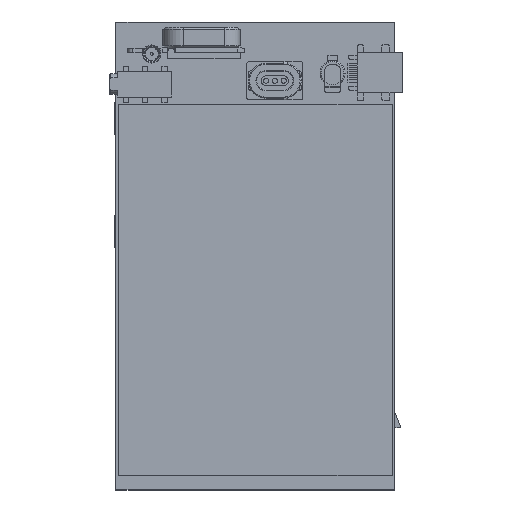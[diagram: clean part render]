
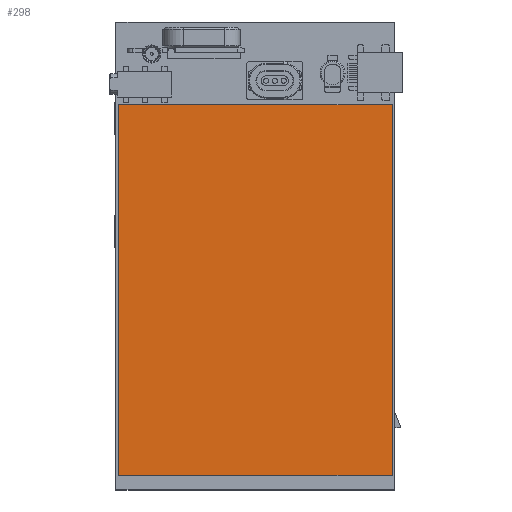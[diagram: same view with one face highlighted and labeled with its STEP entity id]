
A CAD part, top view. The second image highlights one B-rep face of the part: STEP entity #298.
In plain terms, the highlighted planar face has unit normal (0, 0, 1).
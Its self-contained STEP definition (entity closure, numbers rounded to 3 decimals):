
#171=DIRECTION('',(-1.,0.,0.));
#172=VECTOR('',#171,52.9);
#173=CARTESIAN_POINT('',(26.45,4.8,5.4));
#174=LINE('',#173,#172);
#183=DIRECTION('',(0.,1.,0.));
#184=VECTOR('',#183,71.7);
#185=CARTESIAN_POINT('',(-26.45,4.8,5.4));
#186=LINE('',#185,#184);
#191=DIRECTION('',(1.,0.,0.));
#192=VECTOR('',#191,52.9);
#193=CARTESIAN_POINT('',(-26.45,76.5,5.4));
#194=LINE('',#193,#192);
#195=DIRECTION('',(0.,-1.,0.));
#196=VECTOR('',#195,71.7);
#197=CARTESIAN_POINT('',(26.45,76.5,5.4));
#198=LINE('',#197,#196);
#199=CARTESIAN_POINT('',(-26.45,4.8,5.4));
#201=VERTEX_POINT('',#199);
#203=CARTESIAN_POINT('',(26.45,4.8,5.4));
#204=VERTEX_POINT('',#203);
#207=CARTESIAN_POINT('',(-26.45,76.5,5.4));
#209=VERTEX_POINT('',#207);
#211=CARTESIAN_POINT('',(26.45,76.5,5.4));
#213=VERTEX_POINT('',#211);
#287=CARTESIAN_POINT('',(0.,40.65,5.4));
#288=DIRECTION('',(0.,0.,1.));
#289=DIRECTION('',(1.,0.,0.));
#290=AXIS2_PLACEMENT_3D('',#287,#288,#289);
#291=PLANE('',#290);
#292=ORIENTED_EDGE('',*,*,#239,.T.);
#293=ORIENTED_EDGE('',*,*,#254,.T.);
#294=ORIENTED_EDGE('',*,*,#268,.T.);
#295=ORIENTED_EDGE('',*,*,#281,.T.);
#296=EDGE_LOOP('',(#292,#293,#294,#295));
#297=FACE_OUTER_BOUND('',#296,.F.);
#298=ADVANCED_FACE('',(#297),#291,.T.);
#239=EDGE_CURVE('',#204,#201,#174,.T.);
#254=EDGE_CURVE('',#201,#209,#186,.T.);
#268=EDGE_CURVE('',#209,#213,#194,.T.);
#281=EDGE_CURVE('',#213,#204,#198,.T.);
